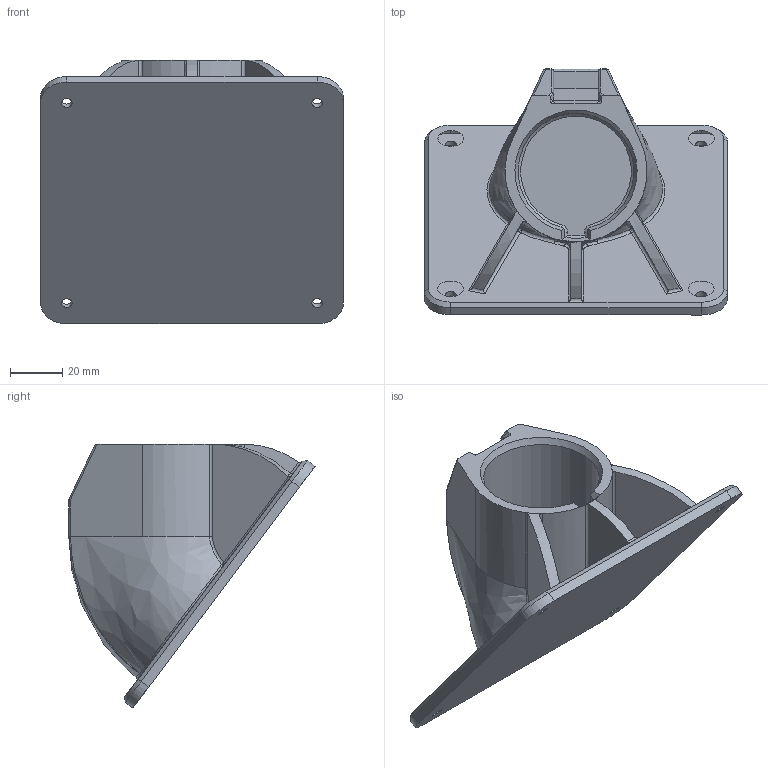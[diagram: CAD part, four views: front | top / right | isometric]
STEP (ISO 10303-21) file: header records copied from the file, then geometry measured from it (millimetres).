
FILE_DESCRIPTION(/* description */ (''),/* implementation_level */ '2;1');
FILE_NAME(/* name */ 'Dummy Plug.stp',/* time_stamp */ '2025-02-06T11:57:23-05:00',/* author */ ('austi'),/* organization */ (''),/* preprocessor_version */ 'ST-DEVELOPER v20',/* originating_system */ 'Autodesk Inventor 2025',/* authorisation */ '');
FILE_SCHEMA (('AUTOMOTIVE_DESIGN { 1 0 10303 214 3 1 1 }'));
Length unit declared in the file: millimetre
Products named in the file (1): Dummy Plug v2
Bounding box: 115.81 x 94.09 x 100.92 mm (x, y, z)
Volume: 206437.4 mm3; surface area: 49903.5 mm2
Topology: 1 solids, 1 shells, 165 faces, 422 edges, 255 vertices
Faces by surface type: cylinder 50, bspline 47, plane 42, cone 14, sphere 12
Full cylindrical faces by diameter (mm): 4.15 x4
Entity records: 8887 total; most frequent: CARTESIAN_POINT 5163, ORIENTED_EDGE 832, DIRECTION 670, EDGE_CURVE 416, AXIS2_PLACEMENT_3D 260, VERTEX_POINT 255, EDGE_LOOP 175, FACE_OUTER_BOUND 165
